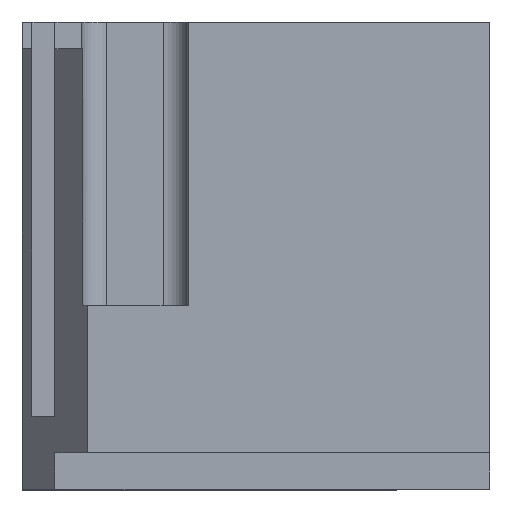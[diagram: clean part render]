
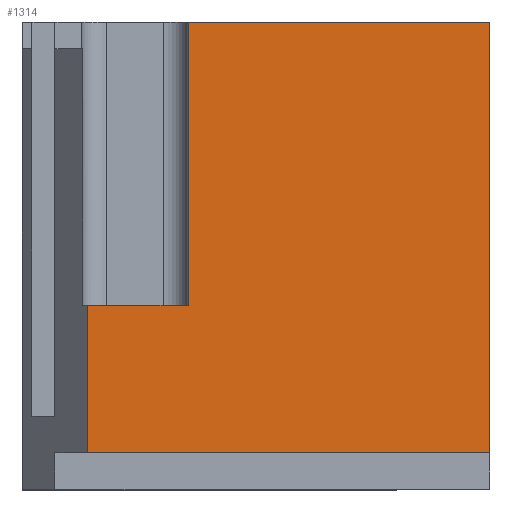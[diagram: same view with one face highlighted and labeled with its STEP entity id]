
A CAD part, top view. The second image highlights one B-rep face of the part: STEP entity #1314.
In plain terms, the highlighted planar face has unit normal (0, 0, 1).
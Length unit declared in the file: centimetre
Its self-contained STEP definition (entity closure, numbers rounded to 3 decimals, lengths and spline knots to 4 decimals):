
#25 = LINE ( 'NONE', #514, #88 ) ;
#79 = LINE ( 'NONE', #860, #1387 ) ;
#88 = VECTOR ( 'NONE', #885, 100. ) ;
#107 = CARTESIAN_POINT ( 'NONE',  ( 354.975, 393.8864, 1000. ) ) ;
#132 = VECTOR ( 'NONE', #781, 100. ) ;
#153 = LINE ( 'NONE', #1268, #582 ) ;
#154 = ORIENTED_EDGE ( 'NONE', *, *, #473, .T. ) ;
#185 = VECTOR ( 'NONE', #329, 100. ) ;
#192 = LINE ( 'NONE', #677, #1282 ) ;
#223 = LINE ( 'NONE', #230, #185 ) ;
#230 = CARTESIAN_POINT ( 'NONE',  ( 1000., 78.1627, 1000. ) ) ;
#232 = EDGE_CURVE ( 'NONE', #411, #1539, #79, .T. ) ;
#256 = ORIENTED_EDGE ( 'NONE', *, *, #1430, .F. ) ;
#279 = FACE_OUTER_BOUND ( 'NONE', #1501, .T. ) ;
#282 = VERTEX_POINT ( 'NONE', #489 ) ;
#318 = VERTEX_POINT ( 'NONE', #382 ) ;
#329 = DIRECTION ( 'NONE',  ( -1., 0., 0. ) ) ;
#365 = CARTESIAN_POINT ( 'NONE',  ( 0., 0., 1000. ) ) ;
#380 = ORIENTED_EDGE ( 'NONE', *, *, #1069, .T. ) ;
#382 = CARTESIAN_POINT ( 'NONE',  ( 1000., 78.1627, 1000. ) ) ;
#390 = PLANE ( 'NONE',  #1272 ) ;
#411 = VERTEX_POINT ( 'NONE', #1124 ) ;
#419 = LINE ( 'NONE', #436, #132 ) ;
#436 = CARTESIAN_POINT ( 'NONE',  ( 0., 393.8864, 1000. ) ) ;
#444 = DIRECTION ( 'NONE',  ( -1., 0., 0. ) ) ;
#473 = EDGE_CURVE ( 'NONE', #318, #282, #192, .T. ) ;
#489 = CARTESIAN_POINT ( 'NONE',  ( 1000., 1000., 1000. ) ) ;
#498 = ORIENTED_EDGE ( 'NONE', *, *, #1261, .F. ) ;
#514 = CARTESIAN_POINT ( 'NONE',  ( 354.975, 393.8864, 1000. ) ) ;
#562 = DIRECTION ( 'NONE',  ( 0., -1., 0. ) ) ;
#582 = VECTOR ( 'NONE', #444, 100. ) ;
#612 = VERTEX_POINT ( 'NONE', #1009 ) ;
#642 = EDGE_CURVE ( 'NONE', #411, #828, #419, .T. ) ;
#677 = CARTESIAN_POINT ( 'NONE',  ( 1000., 1000., 1000. ) ) ;
#781 = DIRECTION ( 'NONE',  ( 1., 0., 0. ) ) ;
#828 = VERTEX_POINT ( 'NONE', #107 ) ;
#842 = DIRECTION ( 'NONE',  ( 0., 0., 1. ) ) ;
#844 = ORIENTED_EDGE ( 'NONE', *, *, #232, .T. ) ;
#860 = CARTESIAN_POINT ( 'NONE',  ( 139.0416, 942.991, 1000. ) ) ;
#885 = DIRECTION ( 'NONE',  ( 0., 1., 0. ) ) ;
#1009 = CARTESIAN_POINT ( 'NONE',  ( 354.975, 1000., 1000. ) ) ;
#1059 = ORIENTED_EDGE ( 'NONE', *, *, #642, .F. ) ;
#1069 = EDGE_CURVE ( 'NONE', #282, #612, #153, .T. ) ;
#1124 = CARTESIAN_POINT ( 'NONE',  ( 139.0416, 393.8864, 1000. ) ) ;
#1142 = CARTESIAN_POINT ( 'NONE',  ( 139.0416, 78.1627, 1000. ) ) ;
#1261 = EDGE_CURVE ( 'NONE', #318, #1539, #223, .T. ) ;
#1268 = CARTESIAN_POINT ( 'NONE',  ( 0., 1000., 1000. ) ) ;
#1272 = AXIS2_PLACEMENT_3D ( 'NONE', #365, #842, #1447 ) ;
#1282 = VECTOR ( 'NONE', #1517, 100. ) ;
#1314 = ADVANCED_FACE ( 'NONE', ( #279 ), #390, .T. ) ;
#1387 = VECTOR ( 'NONE', #562, 100. ) ;
#1430 = EDGE_CURVE ( 'NONE', #828, #612, #25, .T. ) ;
#1447 = DIRECTION ( 'NONE',  ( 1., 0., 0. ) ) ;
#1501 = EDGE_LOOP ( 'NONE', ( #498, #154, #380, #256, #1059, #844 ) ) ;
#1517 = DIRECTION ( 'NONE',  ( 0., 1., 0. ) ) ;
#1539 = VERTEX_POINT ( 'NONE', #1142 ) ;
